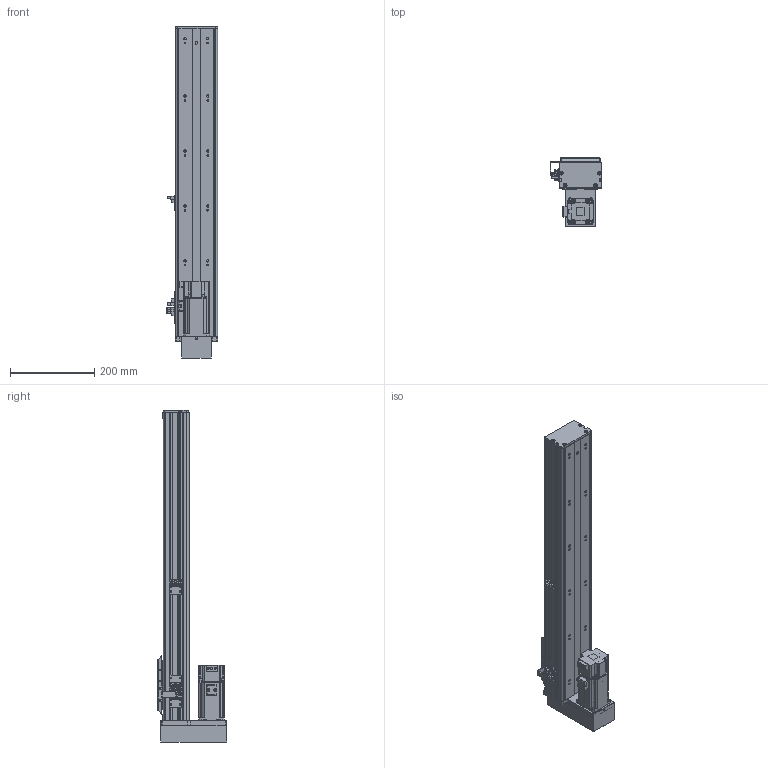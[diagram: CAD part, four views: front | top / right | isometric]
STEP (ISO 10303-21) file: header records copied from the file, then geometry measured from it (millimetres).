
FILE_DESCRIPTION (( 'STEP AP203' ), '1' );
FILE_NAME ('BOSW100-550-1610-1P-DM-M400W-O-S3（方程式2016）.step', '2020-10-10T06:44:17', ( '' ), ( '' ), 'SwSTEP 2.0', 'SolidWorks 2016', '' );
FILE_SCHEMA (( 'CONFIG_CONTROL_DESIGN' ));
Length unit declared in the file: millimetre
Products named in the file (14): 俋境嫖覜嘐隅啣; S400W(SMA-L040); BOSW-100-1P-DM-宽轨-钢带-550客户图纸; BOSW&TW-100-詩湍揤沭(陔賦凳); BOS100-DM鎮湛欶; BOS-100-DM鎮湛假蚾啣; BOSW-100-1P-DM-宽轨-侧板-550客户图纸; BOSW100-550-1610-1P-DM-M400W-O-S3（方程式2016）; BOSW-100-綴裔啣; 放大器内置U型微型光电传感器PM-L65; BOSW&TW-100-1P-賑雄釱欶; BOSW-100-1P-DM-550諦誧芞; 新结构AIMSW-100-1P-宽&高轨共用-滑动座上组件; BOSW&TW-100-俋离覜茼え
Assembly tree (19 placements, depth 2):
  BOSW100-550-1610-1P-DM-M400W-O-S3（方程式2016）
    BOSW-100-1P-DM-550諦誧芞
    BOSW-100-綴裔啣
    新结构AIMSW-100-1P-宽&高轨共用-滑动座上组件
    S400W(SMA-L040)
    BOSW&TW-100-詩湍揤沭(陔賦凳)  x2
    BOSW&TW-100-1P-賑雄釱欶
    BOSW&TW-100-俋离覜茼え
    俋境嫖覜嘐隅啣  x3
    放大器内置U型微型光电传感器PM-L65  x3
    BOSW-100-1P-DM-宽轨-侧板-550客户图纸  x2
    BOSW-100-1P-DM-宽轨-钢带-550客户图纸
    BOS100-DM鎮湛欶
    BOS-100-DM鎮湛假蚾啣
Bounding box: 120.9 x 164 x 786 mm (x, y, z)
Volume: 1810258.3 mm3; surface area: 855953.8 mm2
Topology: 19 solids, 19 shells, 2540 faces, 6698 edges, 4281 vertices
Faces by surface type: plane 1265, cylinder 799, bspline 271, cone 157, torus 36, sphere 12
Entity records: 69739 total; most frequent: CARTESIAN_POINT 20872, ORIENTED_EDGE 9952, DIRECTION 9628, EDGE_CURVE 4976, AXIS2_PLACEMENT_3D 3400, VERTEX_POINT 3183, VECTOR 2828, LINE 2828
